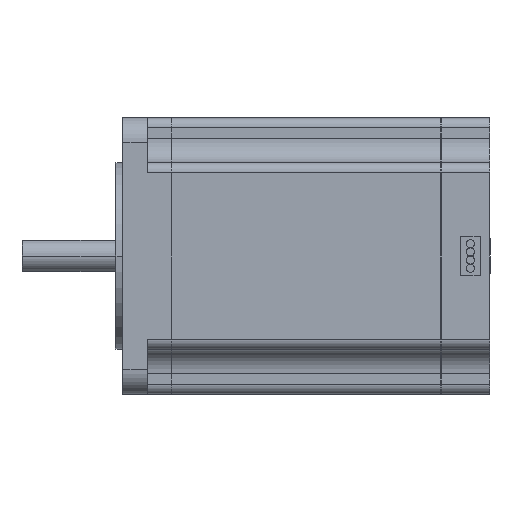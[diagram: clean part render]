
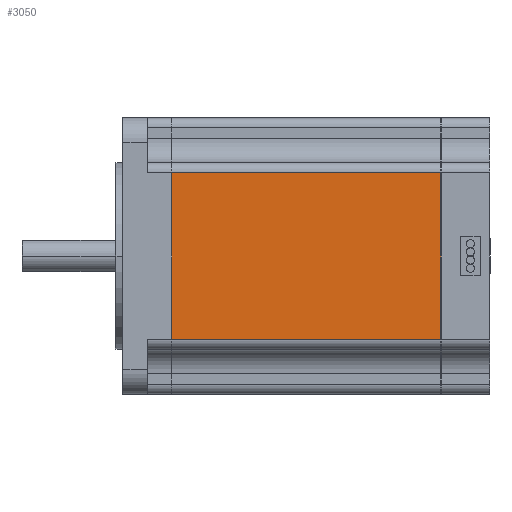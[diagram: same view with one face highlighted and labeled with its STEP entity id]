
A CAD part, front view. The second image highlights one B-rep face of the part: STEP entity #3050.
In plain terms, the highlighted planar face has unit normal (0, -1, 0).
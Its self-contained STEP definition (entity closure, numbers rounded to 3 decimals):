
#509 = PLANE ( 'NONE',  #9880 ) ;
#534 = VERTEX_POINT ( 'NONE', #7527 ) ;
#553 = CARTESIAN_POINT ( 'NONE',  ( 64.99, -28.2, 17.05 ) ) ;
#679 = ORIENTED_EDGE ( 'NONE', *, *, #7050, .F. ) ;
#966 = EDGE_LOOP ( 'NONE', ( #4899, #679, #2293, #2321 ) ) ;
#1081 = CARTESIAN_POINT ( 'NONE',  ( 64.99, -28.2, 17.05 ) ) ;
#1245 = LINE ( 'NONE', #9188, #3550 ) ;
#1812 = CARTESIAN_POINT ( 'NONE',  ( 64.99, -28.2, 17.05 ) ) ;
#2293 = ORIENTED_EDGE ( 'NONE', *, *, #3067, .F. ) ;
#2321 = ORIENTED_EDGE ( 'NONE', *, *, #8790, .T. ) ;
#2352 = VERTEX_POINT ( 'NONE', #4558 ) ;
#3050 = ADVANCED_FACE ( 'NONE', ( #6062 ), #509, .F. ) ;
#3067 = EDGE_CURVE ( 'NONE', #8194, #534, #10173, .T. ) ;
#3286 = VECTOR ( 'NONE', #3861, 1000. ) ;
#3355 = DIRECTION ( 'NONE',  ( -1., 0., 0. ) ) ;
#3386 = DIRECTION ( 'NONE',  ( 0., 0., -1. ) ) ;
#3550 = VECTOR ( 'NONE', #3355, 1000. ) ;
#3861 = DIRECTION ( 'NONE',  ( -1., 0., 0. ) ) ;
#3999 = CARTESIAN_POINT ( 'NONE',  ( 10.01, -28.2, 17.05 ) ) ;
#4287 = CARTESIAN_POINT ( 'NONE',  ( 10.01, -28.2, -17.05 ) ) ;
#4558 = CARTESIAN_POINT ( 'NONE',  ( 10.01, -28.2, 17.05 ) ) ;
#4724 = VECTOR ( 'NONE', #3386, 1000. ) ;
#4899 = ORIENTED_EDGE ( 'NONE', *, *, #10360, .T. ) ;
#6062 = FACE_OUTER_BOUND ( 'NONE', #966, .T. ) ;
#6543 = VERTEX_POINT ( 'NONE', #4287 ) ;
#6675 = VECTOR ( 'NONE', #8902, 1000. ) ;
#7050 = EDGE_CURVE ( 'NONE', #534, #6543, #10555, .T. ) ;
#7291 = LINE ( 'NONE', #3999, #6675 ) ;
#7527 = CARTESIAN_POINT ( 'NONE',  ( 64.99, -28.2, -17.05 ) ) ;
#8194 = VERTEX_POINT ( 'NONE', #1081 ) ;
#8274 = DIRECTION ( 'NONE',  ( 0., 0., 1. ) ) ;
#8687 = CARTESIAN_POINT ( 'NONE',  ( 64.99, -28.2, -17.05 ) ) ;
#8790 = EDGE_CURVE ( 'NONE', #8194, #2352, #1245, .T. ) ;
#8902 = DIRECTION ( 'NONE',  ( 0., 0., -1. ) ) ;
#9188 = CARTESIAN_POINT ( 'NONE',  ( 64.99, -28.2, 17.05 ) ) ;
#9880 = AXIS2_PLACEMENT_3D ( 'NONE', #553, #11153, #8274 ) ;
#10173 = LINE ( 'NONE', #1812, #4724 ) ;
#10360 = EDGE_CURVE ( 'NONE', #2352, #6543, #7291, .T. ) ;
#10555 = LINE ( 'NONE', #8687, #3286 ) ;
#11153 = DIRECTION ( 'NONE',  ( 0., 1., 0. ) ) ;
